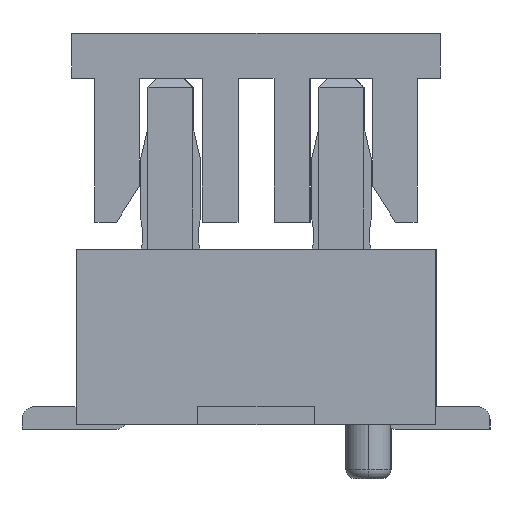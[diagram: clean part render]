
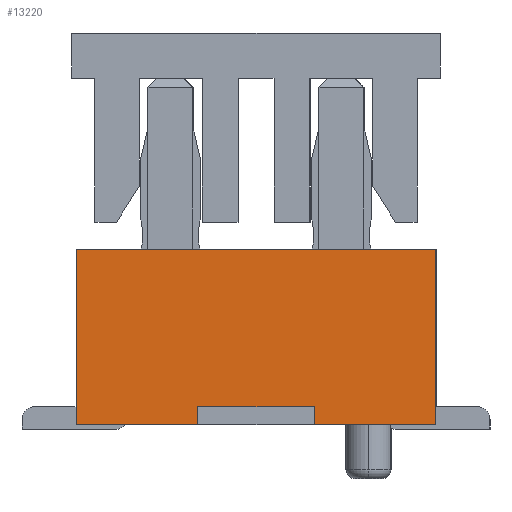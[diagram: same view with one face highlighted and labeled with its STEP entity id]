
A CAD part, left-side view. The second image highlights one B-rep face of the part: STEP entity #13220.
In plain terms, the highlighted planar face has unit normal (-1, 0, 0).
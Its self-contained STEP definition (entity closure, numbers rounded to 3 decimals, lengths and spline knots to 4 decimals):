
#1955 = EDGE_CURVE ( 'NONE', #144554, #5320, #91628, .T. ) ;
#5320 = VERTEX_POINT ( 'NONE', #97195 ) ;
#8947 = DIRECTION ( 'NONE',  ( 1., 0., 0. ) ) ;
#10466 = VECTOR ( 'NONE', #24629, 1000. ) ;
#11360 = ORIENTED_EDGE ( 'NONE', *, *, #13437, .F. ) ;
#13220 = ADVANCED_FACE ( 'NONE', ( #87660 ), #161342, .F. ) ;
#13437 = EDGE_CURVE ( 'NONE', #105000, #59103, #173138, .T. ) ;
#24629 = DIRECTION ( 'NONE',  ( 0., 0., 1. ) ) ;
#28730 = LINE ( 'NONE', #167166, #144310 ) ;
#34719 = VERTEX_POINT ( 'NONE', #144301 ) ;
#34742 = CARTESIAN_POINT ( 'NONE',  ( -4.95, -0.65, 0.1 ) ) ;
#39372 = CARTESIAN_POINT ( 'NONE',  ( -4.95, 0., 0.2 ) ) ;
#39576 = LINE ( 'NONE', #100323, #10466 ) ;
#43103 = VECTOR ( 'NONE', #157501, 1000. ) ;
#48747 = DIRECTION ( 'NONE',  ( 0., 0., -1. ) ) ;
#49453 = ORIENTED_EDGE ( 'NONE', *, *, #71377, .F. ) ;
#50039 = EDGE_CURVE ( 'NONE', #34719, #132761, #142319, .T. ) ;
#56770 = DIRECTION ( 'NONE',  ( 0., 1., 0. ) ) ;
#57440 = CARTESIAN_POINT ( 'NONE',  ( -4.95, -0.65, 0. ) ) ;
#59103 = VERTEX_POINT ( 'NONE', #135932 ) ;
#59112 = ORIENTED_EDGE ( 'NONE', *, *, #50039, .F. ) ;
#71377 = EDGE_CURVE ( 'NONE', #5320, #105000, #172433, .T. ) ;
#76707 = CARTESIAN_POINT ( 'NONE',  ( -4.95, 0.65, 0.2 ) ) ;
#77313 = ORIENTED_EDGE ( 'NONE', *, *, #93964, .T. ) ;
#78111 = VERTEX_POINT ( 'NONE', #76707 ) ;
#87660 = FACE_OUTER_BOUND ( 'NONE', #115150, .T. ) ;
#88977 = EDGE_CURVE ( 'NONE', #132761, #124791, #188735, .T. ) ;
#91628 = LINE ( 'NONE', #94559, #192271 ) ;
#93964 = EDGE_CURVE ( 'NONE', #34719, #78111, #39576, .T. ) ;
#94454 = VECTOR ( 'NONE', #95480, 1000. ) ;
#94559 = CARTESIAN_POINT ( 'NONE',  ( -4.95, -2., 0.975 ) ) ;
#95480 = DIRECTION ( 'NONE',  ( 0., 0., 1. ) ) ;
#97195 = CARTESIAN_POINT ( 'NONE',  ( -4.95, -2., 0. ) ) ;
#97565 = CARTESIAN_POINT ( 'NONE',  ( -4.95, 2., 0. ) ) ;
#100119 = DIRECTION ( 'NONE',  ( 0., 1., 0. ) ) ;
#100323 = CARTESIAN_POINT ( 'NONE',  ( -4.95, 0.65, 0.1 ) ) ;
#105000 = VERTEX_POINT ( 'NONE', #57440 ) ;
#113023 = DIRECTION ( 'NONE',  ( 0., 0., 1. ) ) ;
#114095 = LINE ( 'NONE', #39372, #137863 ) ;
#115150 = EDGE_LOOP ( 'NONE', ( #77313, #144933, #11360, #49453, #182975, #172126, #181420, #59112 ) ) ;
#118623 = VECTOR ( 'NONE', #113023, 1000. ) ;
#119328 = EDGE_CURVE ( 'NONE', #124791, #144554, #28730, .T. ) ;
#122319 = DIRECTION ( 'NONE',  ( 0., -1., 0. ) ) ;
#124791 = VERTEX_POINT ( 'NONE', #179961 ) ;
#128350 = DIRECTION ( 'NONE',  ( 0., 1., 0. ) ) ;
#132761 = VERTEX_POINT ( 'NONE', #97565 ) ;
#135932 = CARTESIAN_POINT ( 'NONE',  ( -4.95, -0.65, 0.2 ) ) ;
#137863 = VECTOR ( 'NONE', #100119, 1000. ) ;
#142319 = LINE ( 'NONE', #172227, #169346 ) ;
#144301 = CARTESIAN_POINT ( 'NONE',  ( -4.95, 0.65, 0. ) ) ;
#144310 = VECTOR ( 'NONE', #122319, 1000. ) ;
#144554 = VERTEX_POINT ( 'NONE', #155389 ) ;
#144933 = ORIENTED_EDGE ( 'NONE', *, *, #166638, .F. ) ;
#155389 = CARTESIAN_POINT ( 'NONE',  ( -4.95, -2., 1.95 ) ) ;
#157501 = DIRECTION ( 'NONE',  ( 0., 1., 0. ) ) ;
#158462 = CARTESIAN_POINT ( 'NONE',  ( -4.95, -1.325, 0. ) ) ;
#161342 = PLANE ( 'NONE',  #170796 ) ;
#166638 = EDGE_CURVE ( 'NONE', #59103, #78111, #114095, .T. ) ;
#167166 = CARTESIAN_POINT ( 'NONE',  ( -4.95, 0., 1.95 ) ) ;
#169346 = VECTOR ( 'NONE', #128350, 1000. ) ;
#170796 = AXIS2_PLACEMENT_3D ( 'NONE', #175309, #8947, #56770 ) ;
#172126 = ORIENTED_EDGE ( 'NONE', *, *, #119328, .F. ) ;
#172227 = CARTESIAN_POINT ( 'NONE',  ( -4.95, 1.325, 0. ) ) ;
#172433 = LINE ( 'NONE', #158462, #43103 ) ;
#172782 = CARTESIAN_POINT ( 'NONE',  ( -4.95, 2., 0.975 ) ) ;
#173138 = LINE ( 'NONE', #34742, #94454 ) ;
#175309 = CARTESIAN_POINT ( 'NONE',  ( -4.95, 0., 0. ) ) ;
#179961 = CARTESIAN_POINT ( 'NONE',  ( -4.95, 2., 1.95 ) ) ;
#181420 = ORIENTED_EDGE ( 'NONE', *, *, #88977, .F. ) ;
#182975 = ORIENTED_EDGE ( 'NONE', *, *, #1955, .F. ) ;
#188735 = LINE ( 'NONE', #172782, #118623 ) ;
#192271 = VECTOR ( 'NONE', #48747, 1000. ) ;
